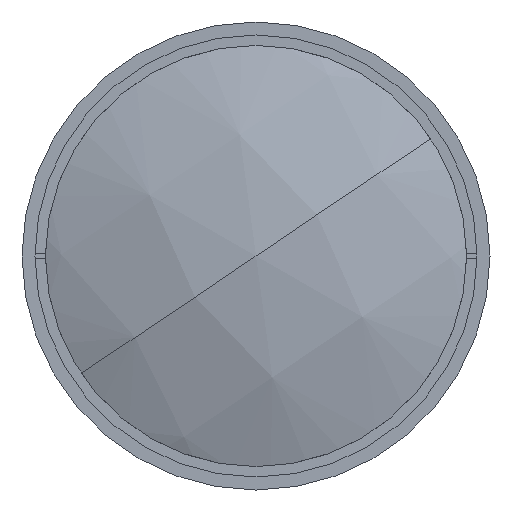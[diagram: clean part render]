
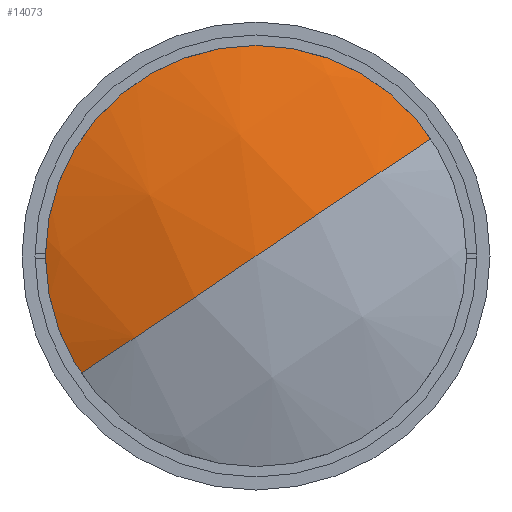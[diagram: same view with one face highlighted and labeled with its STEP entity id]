
A CAD part, left-side view. The second image highlights one B-rep face of the part: STEP entity #14073.
In plain terms, the highlighted spherical face has radius 111.8 mm.
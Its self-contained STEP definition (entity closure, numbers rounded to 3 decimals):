
#735 = CIRCLE ( 'NONE', #12048, 41.5 ) ;
#1067 = CARTESIAN_POINT ( 'NONE',  ( 9.488, -34.435, 23.162 ) ) ;
#1096 = AXIS2_PLACEMENT_3D ( 'NONE', #2102, #19044, #20671 ) ;
#2102 = CARTESIAN_POINT ( 'NONE',  ( 113.3, 0., 0. ) ) ;
#2337 = DIRECTION ( 'NONE',  ( 0., 0.558, 0.83 ) ) ;
#2964 = ORIENTED_EDGE ( 'NONE', *, *, #15774, .F. ) ;
#3098 = ORIENTED_EDGE ( 'NONE', *, *, #16300, .T. ) ;
#4266 = VERTEX_POINT ( 'NONE', #1067 ) ;
#4834 = DIRECTION ( 'NONE',  ( 0., -0.558, -0.83 ) ) ;
#5694 = AXIS2_PLACEMENT_3D ( 'NONE', #14717, #4834, #16386 ) ;
#7473 = FACE_OUTER_BOUND ( 'NONE', #14374, .T. ) ;
#7702 = VERTEX_POINT ( 'NONE', #12897 ) ;
#9832 = CARTESIAN_POINT ( 'NONE',  ( 9.488, 0., 0. ) ) ;
#10488 = ORIENTED_EDGE ( 'NONE', *, *, #14870, .T. ) ;
#11477 = DIRECTION ( 'NONE',  ( 0., 0.558, 0.83 ) ) ;
#11919 = AXIS2_PLACEMENT_3D ( 'NONE', #12200, #2337, #13875 ) ;
#12048 = AXIS2_PLACEMENT_3D ( 'NONE', #9832, #21333, #11477 ) ;
#12200 = CARTESIAN_POINT ( 'NONE',  ( 113.3, 0., 0. ) ) ;
#12897 = CARTESIAN_POINT ( 'NONE',  ( 9.488, 34.435, -23.162 ) ) ;
#13875 = DIRECTION ( 'NONE',  ( 0., -0.83, 0.558 ) ) ;
#14073 = ADVANCED_FACE ( 'NONE', ( #7473 ), #16782, .T. ) ;
#14130 = CIRCLE ( 'NONE', #11919, 111.8 ) ;
#14374 = EDGE_LOOP ( 'NONE', ( #10488, #3098, #2964 ) ) ;
#14717 = CARTESIAN_POINT ( 'NONE',  ( 113.3, 0., 0. ) ) ;
#14870 = EDGE_CURVE ( 'NONE', #4266, #7702, #735, .T. ) ;
#15774 = EDGE_CURVE ( 'NONE', #4266, #19406, #18788, .T. ) ;
#16300 = EDGE_CURVE ( 'NONE', #7702, #19406, #14130, .T. ) ;
#16386 = DIRECTION ( 'NONE',  ( 0., 0.83, -0.558 ) ) ;
#16782 = SPHERICAL_SURFACE ( 'NONE', #1096, 111.8 ) ;
#18788 = CIRCLE ( 'NONE', #5694, 111.8 ) ;
#19044 = DIRECTION ( 'NONE',  ( 0., 0.558, 0.83 ) ) ;
#19174 = CARTESIAN_POINT ( 'NONE',  ( 1.5, 0., 0. ) ) ;
#19406 = VERTEX_POINT ( 'NONE', #19174 ) ;
#20671 = DIRECTION ( 'NONE',  ( 0., -0.83, 0.558 ) ) ;
#21333 = DIRECTION ( 'NONE',  ( -1., 0., 0. ) ) ;
